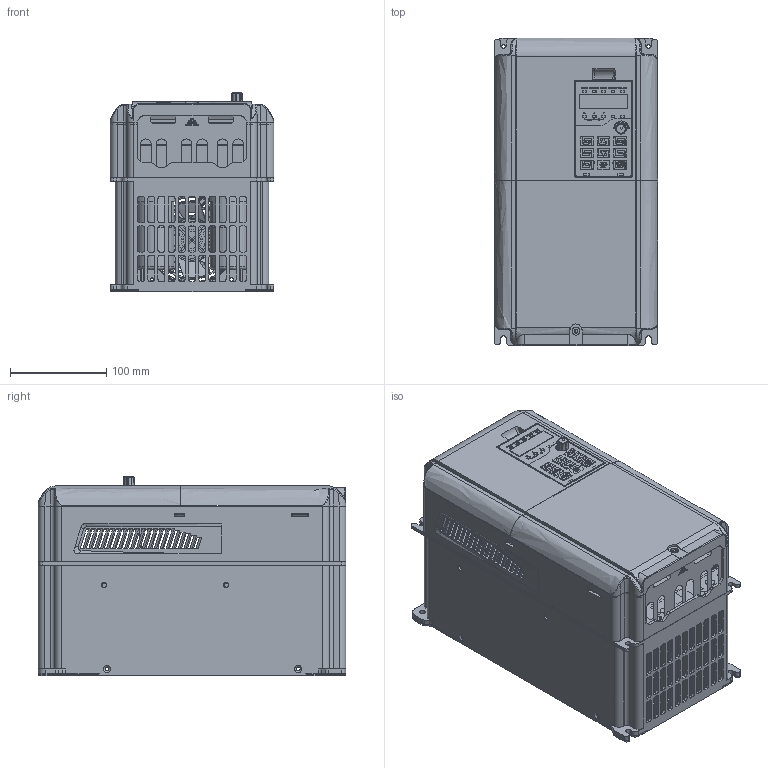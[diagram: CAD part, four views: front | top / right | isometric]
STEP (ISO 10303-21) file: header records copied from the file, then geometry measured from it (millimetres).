
FILE_DESCRIPTION (( 'STEP AP214' ), '1' );
FILE_NAME ('00-KC200-18.5KW ÍâÐÎ³ß´çÍ¼.STEP', '2024-05-28T09:25:33', ( '' ), ( '' ), 'SwSTEP 2.0', 'SolidWorks 2020', '' );
FILE_SCHEMA (( 'AUTOMOTIVE_DESIGN' ));
Length unit declared in the file: millimetre
Products named in the file (1): 00-KC200-18.5KW 俋倛喜渡芞
Bounding box: 170 x 320 x 207.4 mm (x, y, z)
Surface area: 698866.4 mm2 (no closed solid volume)
Topology: 0 solids, 82 shells, 1493 faces, 8710 edges, 7134 vertices
Faces by surface type: plane 863, cylinder 402, bspline 197, cone 31
Entity records: 123544 total; most frequent: CARTESIAN_POINT 45295, ORIENTED_EDGE 12079, DIRECTION 10377, EDGE_CURVE 8708, VERTEX_POINT 7135, LINE 5587, VECTOR 5587, AXIS2_PLACEMENT_3D 2395
